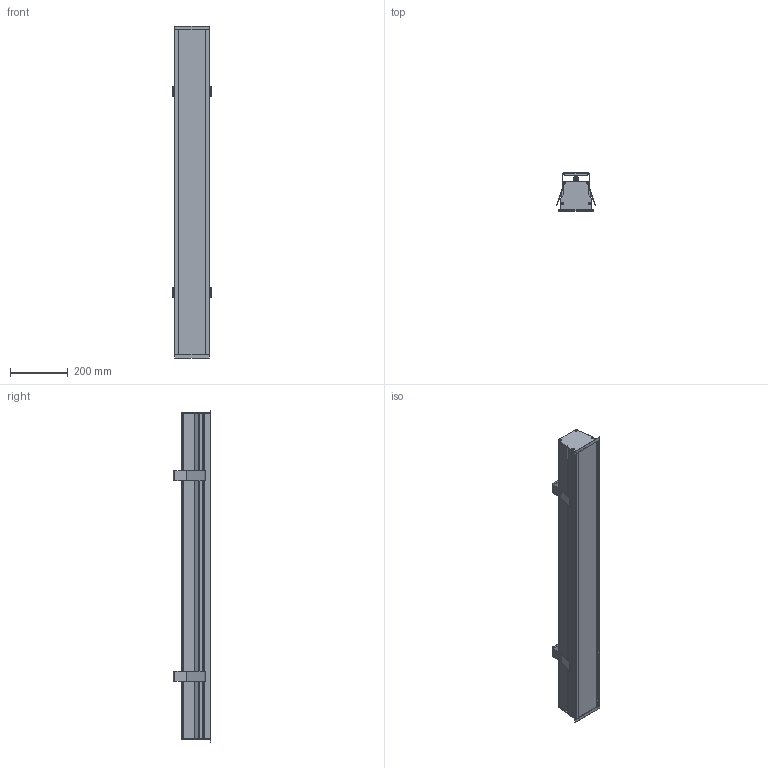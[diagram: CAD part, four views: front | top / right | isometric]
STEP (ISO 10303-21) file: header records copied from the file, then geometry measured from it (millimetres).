
FILE_DESCRIPTION (( 'STEP AP214' ), '1' );
FILE_NAME ('mLight KleoX105 Recessed LED_1134mm_Direct.STEP', '2020-08-06T01:10:56', ( '' ), ( '' ), 'SwSTEP 2.0', 'SolidWorks 2017', '' );
FILE_SCHEMA (( 'AUTOMOTIVE_DESIGN' ));
Length unit declared in the file: millimetre
Products named in the file (6): X105 Recess Body Bracket; cross countersunk head screw_as_AS-NZS 1023 CC- M4 x 10-N; Kleo X105 End Cap - REC; Body; RF0013 - Spring Conical2; mLight KleoX105 Recessed LED_1134mm_Direct
Assembly tree (15 placements, depth 2):
  mLight KleoX105 Recessed LED_1134mm_Direct
    Body
    Kleo X105 End Cap - REC  x2
    cross countersunk head screw_as_AS-NZS 1023 CC- M4 x 10-N  x8
    X105 Recess Body Bracket  x2
    RF0013 - Spring Conical2  x2
Bounding box: 136.92 x 130 x 1148 mm (x, y, z)
Volume: 10688730.4 mm3; surface area: 636803.2 mm2
Topology: 15 solids, 15 shells, 670 faces, 1596 edges, 948 vertices
Faces by surface type: plane 377, cylinder 153, cone 120, torus 16, bspline 4
Entity records: 11836 total; most frequent: CARTESIAN_POINT 5504, DIRECTION 1333, ORIENTED_EDGE 1236, EDGE_CURVE 618, AXIS2_PLACEMENT_3D 467, LINE 399, VECTOR 399, VERTEX_POINT 382
